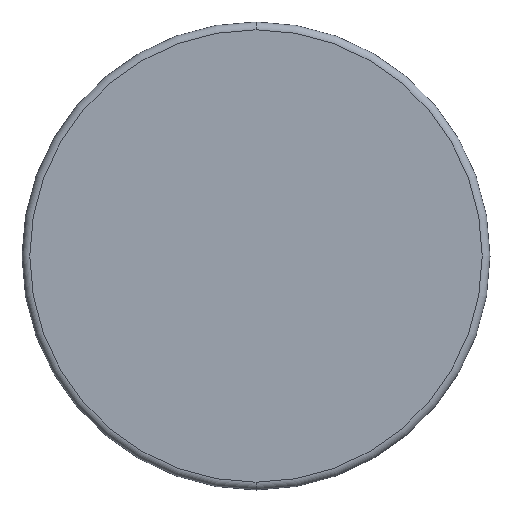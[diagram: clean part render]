
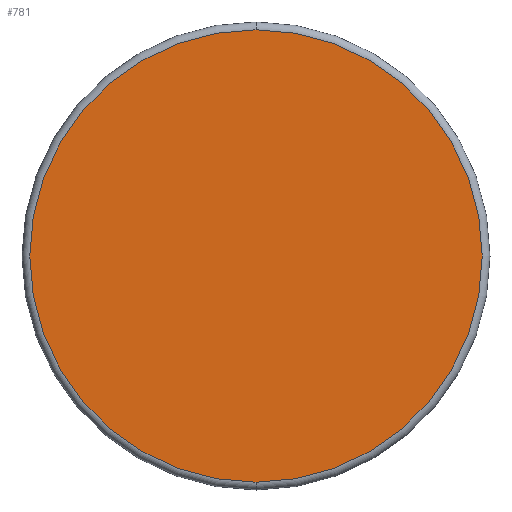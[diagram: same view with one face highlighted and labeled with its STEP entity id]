
A CAD part, front view. The second image highlights one B-rep face of the part: STEP entity #781.
In plain terms, the highlighted planar face has unit normal (0, -1, 0).
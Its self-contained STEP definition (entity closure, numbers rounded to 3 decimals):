
#29 = EDGE_CURVE ( 'NONE', #184, #355, #183, .T. ) ;
#43 = CIRCLE ( 'NONE', #988, 29. ) ;
#183 = CIRCLE ( 'NONE', #773, 29. ) ;
#184 = VERTEX_POINT ( 'NONE', #731 ) ;
#301 = DIRECTION ( 'NONE',  ( 0., 0., 1. ) ) ;
#355 = VERTEX_POINT ( 'NONE', #668 ) ;
#403 = EDGE_CURVE ( 'NONE', #355, #184, #43, .T. ) ;
#442 = EDGE_LOOP ( 'NONE', ( #745, #853 ) ) ;
#443 = CARTESIAN_POINT ( 'NONE',  ( 0., 0., 0. ) ) ;
#455 = CARTESIAN_POINT ( 'NONE',  ( 0., 0., 0. ) ) ;
#612 = PLANE ( 'NONE',  #678 ) ;
#647 = DIRECTION ( 'NONE',  ( 0., -1., 0. ) ) ;
#668 = CARTESIAN_POINT ( 'NONE',  ( 0., 0., 29. ) ) ;
#678 = AXIS2_PLACEMENT_3D ( 'NONE', #443, #704, #301 ) ;
#704 = DIRECTION ( 'NONE',  ( 0., 1., 0. ) ) ;
#705 = DIRECTION ( 'NONE',  ( 0., 0., -1. ) ) ;
#731 = CARTESIAN_POINT ( 'NONE',  ( 0., 0., -29. ) ) ;
#745 = ORIENTED_EDGE ( 'NONE', *, *, #29, .T. ) ;
#773 = AXIS2_PLACEMENT_3D ( 'NONE', #850, #832, #915 ) ;
#781 = ADVANCED_FACE ( 'NONE', ( #925 ), #612, .F. ) ;
#832 = DIRECTION ( 'NONE',  ( 0., -1., 0. ) ) ;
#850 = CARTESIAN_POINT ( 'NONE',  ( 0., 0., 0. ) ) ;
#853 = ORIENTED_EDGE ( 'NONE', *, *, #403, .T. ) ;
#915 = DIRECTION ( 'NONE',  ( 0., 0., -1. ) ) ;
#925 = FACE_OUTER_BOUND ( 'NONE', #442, .T. ) ;
#988 = AXIS2_PLACEMENT_3D ( 'NONE', #455, #647, #705 ) ;
